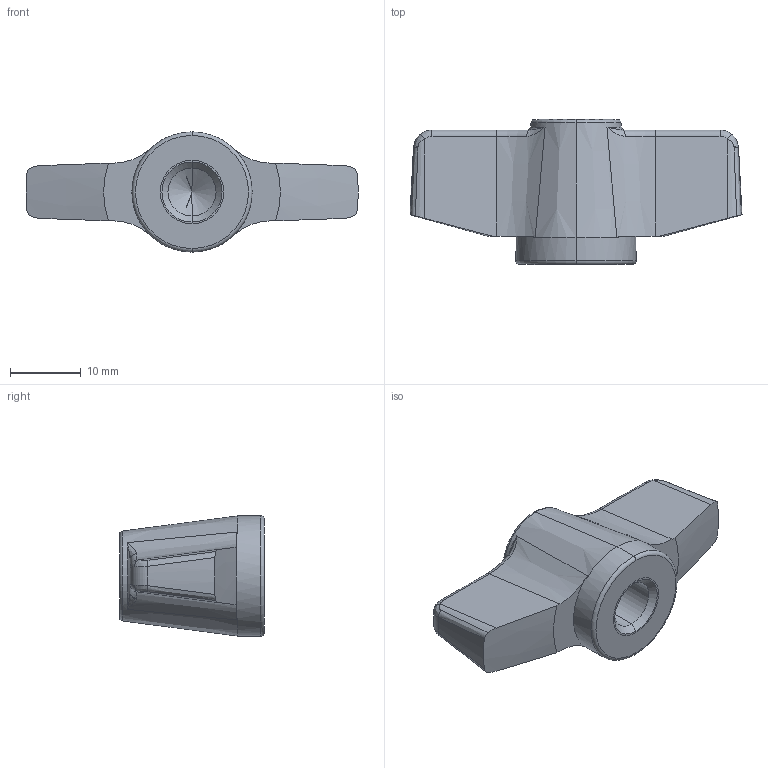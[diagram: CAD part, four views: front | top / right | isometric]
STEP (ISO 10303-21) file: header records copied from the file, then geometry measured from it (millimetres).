
FILE_DESCRIPTION (( 'STEP AP203' ), '1' );
FILE_NAME ('wn715-3_e_m8.step', '2007-01-19T12:37:41', ( 'Magnus Fahlstrom' ), ( '' ), 'SwSTEP 2.0', 'SolidWorks 2007', '' );
FILE_SCHEMA (( 'CONFIG_CONTROL_DESIGN' ));
Length unit declared in the file: millimetre
Products named in the file (1): wn715-3_e_m8
Bounding box: 46.97 x 20.5 x 17 mm (x, y, z)
Volume: 5922.9 mm3; surface area: 2815.3 mm2
Topology: 1 solids, 1 shells, 70 faces, 168 edges, 97 vertices
Faces by surface type: cone 18, bspline 16, cylinder 12, torus 12, plane 12
Entity records: 2479 total; most frequent: CARTESIAN_POINT 914, ORIENTED_EDGE 324, DIRECTION 300, EDGE_CURVE 162, AXIS2_PLACEMENT_3D 131, VERTEX_POINT 97, CIRCLE 76, EDGE_LOOP 73
